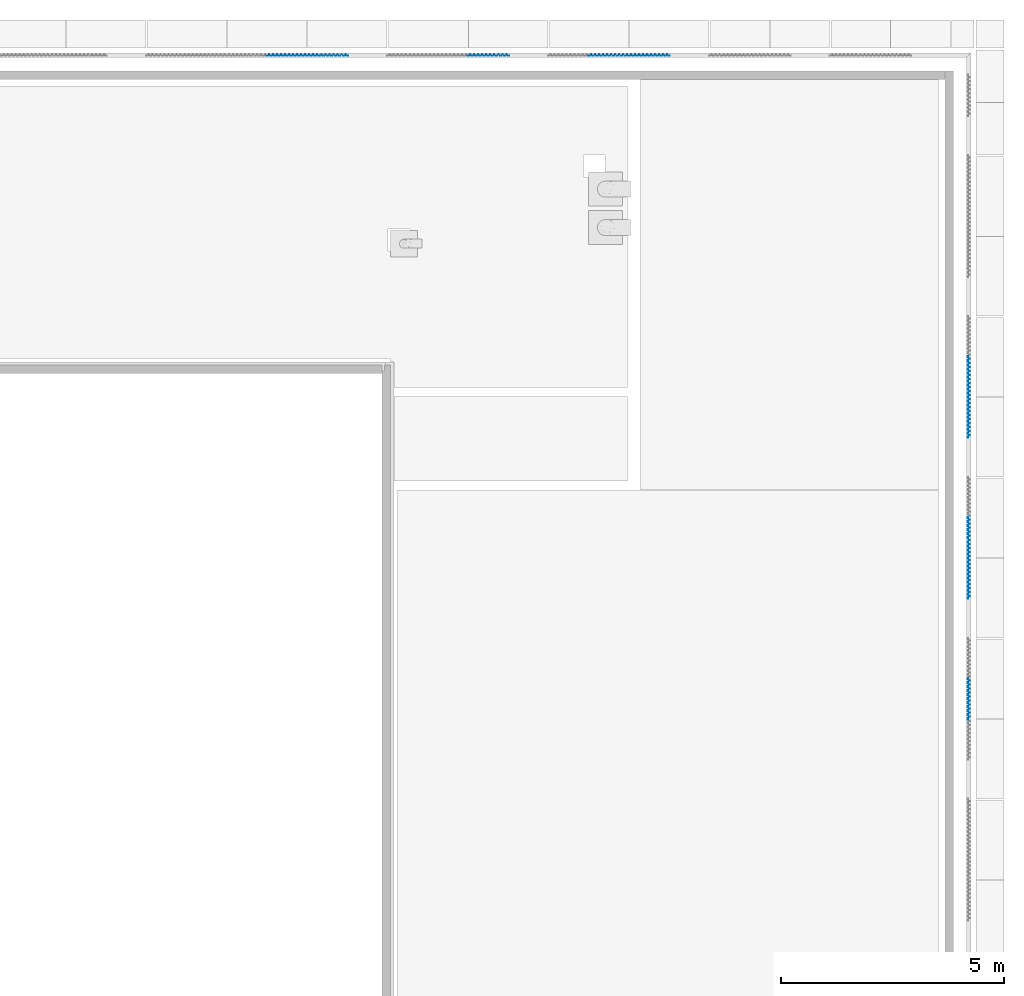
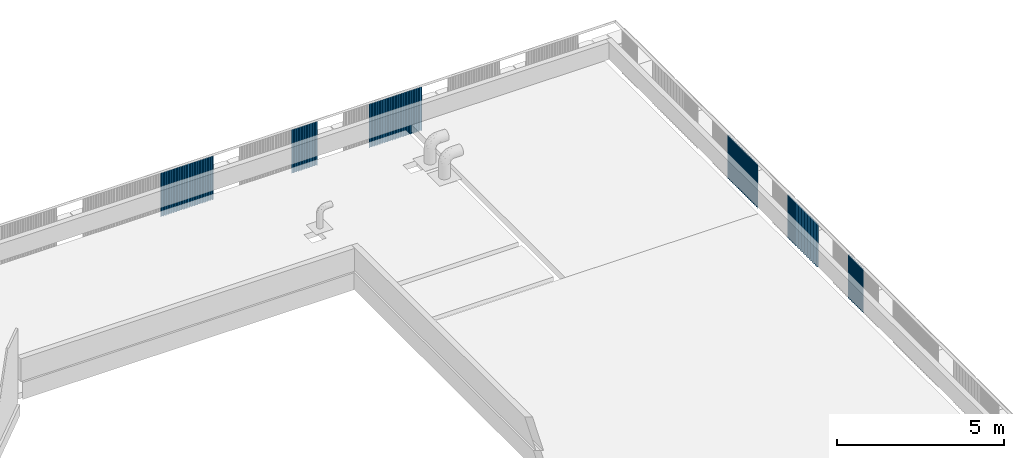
# One storey, part 15 of 37: 10 walls.
"""IFC4X3_ADD2 building model written with IfcOpenShell, lengths in millimetres."""

from ifc_helpers import new_model, si_unit, direction, frame, origin_with_axes, place, context, subcontext, project, spatial, polyline, outline, extrude, source, transform, mapped, material, type_object, type_shapes, element, save


model = new_model("IFC4X3_ADD2")

# Units and contexts
model_context = context("Model", 3, precision=1e-05, world=origin_with_axes(), true_north=direction((0.0, 1.0)))
body_context = subcontext(model_context, "Body", "Model", "MODEL_VIEW")
ifc_project = project(units=[si_unit("LENGTHUNIT", "METRE", prefix="MILLI"), si_unit("AREAUNIT", "SQUARE_METRE"), si_unit("VOLUMEUNIT", "CUBIC_METRE"), si_unit("PLANEANGLEUNIT", "RADIAN"), si_unit("TIMEUNIT", "SECOND"), si_unit("MASSUNIT", "GRAM")], contexts=[model_context])

# Site, building, storey
site_placement = place(None, origin_with_axes())
site = spatial("IfcSite", under=ifc_project, at=site_placement, Name="Site", CompositionType="ELEMENT")
building_placement = place(site_placement, origin_with_axes())
building = spatial("IfcBuilding", under=site, at=building_placement, Name="IFC Building Story")
storey_placement = place(building_placement, frame((0.0, 0.0, 14400.0), z_axis=(0.0, 0.0, 1.0), x_axis=(1.0, 0.0, 0.0)))
storey = spatial("IfcBuildingStorey", under=building, at=storey_placement, Name="040", Elevation=14400.0)

# Walls
ifc_material = material(Name="BB_Metaal_Aluminium_Puntprofiel")
wall_type_1 = type_object("IfcWallType", Name="BB_07.10_Gevelbekleding_PuntProfiel_ 900 mm_ vol_GMO_900 x 1600 mm", PredefinedType="NOTDEFINED")
shared_shape = source(origin_with_axes(), body_context, "Body", "SweptSolid", [
    extrude(outline(polyline([(334.1223513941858, -10.40093329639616), (356.1223513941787, -10.40093329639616), (390.1223513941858, 23.59906670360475), (424.1223513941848, -10.40093329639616), (446.1223513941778, -10.40093329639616), (446.5365649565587, -11.40093329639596), (423.7081378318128, -11.40093329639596), (390.1223513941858, 22.18485314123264), (356.5365649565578, -11.40093329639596), (333.7081378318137, -11.40093329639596), (300.1223513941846, 22.18485314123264), (266.5365649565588, -11.40093329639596), (243.7081378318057, -11.40093329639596), (210.1223513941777, 22.18485314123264), (176.5365649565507, -11.40093329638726), (153.7081378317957, -11.40093329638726), (120.1223513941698, 22.18485314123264), (86.53656495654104, -11.40093329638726), (63.70813783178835, -11.40093329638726), (30.12235139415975, 22.18485314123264), (-3.463435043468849, -11.40093329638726), (-26.2918621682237, -11.40093329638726), (-59.87764860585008, 22.18485314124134), (-93.46343504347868, -11.40093329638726), (-116.2918621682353, -11.40093329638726), (-149.8776486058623, 22.18485314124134), (-183.4634350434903, -11.40093329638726), (-206.2918621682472, -11.40093329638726), (-239.8776486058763, 22.18485314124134), (-273.4634350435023, -11.40093329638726), (-296.2918621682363, -11.40093329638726), (-329.8776486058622, 22.18485314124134), (-363.4634350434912, -11.40093329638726), (-386.2918621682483, -11.40093329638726), (-419.8776486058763, 22.18485314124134), (-453.4634350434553, -11.40093329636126), (-453.8776486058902, -10.40093329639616), (-419.8776486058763, 23.59906670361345), (-385.8776486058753, -10.40093329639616), (-363.8776486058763, -10.40093329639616), (-329.8776486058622, 23.59906670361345), (-295.8776486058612, -10.40093329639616), (-273.8776486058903, -10.40093329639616), (-239.8776486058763, 23.59906670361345), (-205.8776486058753, -10.40093329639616), (-183.8776486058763, -10.40093329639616), (-149.8776486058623, 23.59906670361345), (-115.8776486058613, -10.40093329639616), (-93.87764860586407, -10.40093329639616), (-59.87764860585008, 23.59906670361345), (-25.87764860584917, -10.40093329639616), (-3.877648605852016, -10.40093329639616), (30.12235139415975, 23.59906670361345), (64.12235139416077, -10.40093329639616), (86.12235139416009, -10.40093329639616), (120.1223513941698, 23.59906670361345), (154.1223513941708, -10.40093329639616), (176.1223513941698, -10.40093329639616), (210.1223513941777, 23.59906670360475), (244.1223513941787, -10.40093329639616), (266.1223513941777, -10.40093329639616), (300.1223513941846, 23.59906670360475), (334.1223513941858, -10.40093329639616)])), frame((476.2918621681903, 11.40093329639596, 0.0), z_axis=(0.0, 0.0, 1.0), x_axis=(1.0, 0.0, 0.0)), (0.0, 0.0, 1.0), 1600.0),
    extrude(outline(polyline([(4.353553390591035, 0.499999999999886), (4.353553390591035, -0.499999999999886), (-4.560660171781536, -0.499999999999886), (-4.146446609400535, 0.499999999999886), (4.353553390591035, 0.499999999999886)])), frame((4.560660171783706, 0.499999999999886, 394.66564336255), z_axis=(0.0, 0.0, 1.0), x_axis=(1.0, 0.0, 0.0)), (0.0, 0.0, 1.0), 85.0),
])
type_shapes(wall_type_1, [shared_shape])
wall_1_placement = place(storey_placement, frame((-10776.4142135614, 45715.0, -960.0), z_axis=(0.0, 0.0, 1.0), x_axis=(1.0, 0.0, 0.0)))
element("IfcWall", 1, at=wall_1_placement, inside=storey, type_object=wall_type_1, material=ifc_material, Name="BB_07.10_Gevelbekleding_PuntProfiel, 900 mm, vol_GMO:900 x 1600 mm", ObjectType="BB_07.10_Gevelbekleding_PuntProfiel, 900 mm, vol_GMO:900 x 1600 mm", PredefinedType="NOTDEFINED", context=body_context, shape_type="MappedRepresentation", body=[
    mapped(shared_shape, transform((0.0, 0.0, 0.0))),
])
wall_type_2 = type_object("IfcWallType", Name="BB_Metaal_Aluminium_Puntprofiel 1", PredefinedType="NOTDEFINED", material=ifc_material)
wall_2_placement = place(storey_placement, origin_with_axes())
element("IfcWall", 2, at=wall_2_placement, inside=storey, type_object=wall_type_2, Name="BB_07.10_Gevelbekleding_PuntProfiel, 900 mm, vol_GMO:900 x 1600 mm", ObjectType="BB_07.10_Gevelbekleding_PuntProfiel, 900 mm, vol_GMO:900 x 1600 mm", PredefinedType="NOTDEFINED", context=body_context, shape_type="SweptSolid", body=[
    extrude(outline(polyline([(-10.06027913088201, -349.0000000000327), (-10.06027913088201, -371.0000000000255), (23.93972086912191, -405.0000000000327), (-10.06027913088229, -439.0000000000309), (-10.06027913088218, -461.0000000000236), (-11.06027913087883, -461.4142135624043), (-11.06027913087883, -438.5857864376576), (22.52550730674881, -405.0000000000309), (-11.06027913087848, -371.4142135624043), (-11.06027913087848, -348.5857864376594), (22.52550730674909, -315.0000000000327), (-11.0602791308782, -281.4142135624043), (-11.0602791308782, -258.5857864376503), (22.52550730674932, -225.0000000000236), (-11.06027913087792, -191.4142135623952), (-11.06027913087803, -168.585786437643), (22.5255073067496, -135.0000000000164), (-11.0602791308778, -101.4142135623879), (-11.06027913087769, -78.58578643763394), (22.52550730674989, -45.00000000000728), (-11.06027913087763, -11.41421356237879), (-11.06027913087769, 11.41421356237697), (22.52550730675, 45.00000000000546), (-11.0602791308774, 78.58578643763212), (-11.0602791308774, 101.4142135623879), (22.52550730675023, 135.0000000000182), (-11.06027913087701, 168.585786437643), (-11.06027913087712, 191.4142135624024), (22.5255073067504, 225.0000000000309), (-11.06027913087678, 258.5857864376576), (-11.06027913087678, 281.4142135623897), (22.5255073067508, 315.0000000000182), (-11.06027913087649, 348.585786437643), (-11.06027913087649, 371.4142135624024), (22.52550730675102, 405.0000000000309), (-11.06027913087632, 438.5857864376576), (-11.06027913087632, 461.4142135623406), (-10.0602791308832, 460.9999999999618), (-10.0602791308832, 439.0000000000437), (23.93972086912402, 405.0000000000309), (-10.06027913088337, 371.0000000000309), (-10.06027913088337, 349.0000000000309), (23.93972086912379, 315.0000000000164), (-10.0602791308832, 281.0000000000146), (-10.0602791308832, 259.0000000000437), (23.93972086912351, 225.0000000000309), (-10.060279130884, 191.0000000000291), (-10.060279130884, 169.0000000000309), (23.93972086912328, 135.0000000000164), (-10.06027913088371, 101.0000000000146), (-10.06027913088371, 79.00000000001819), (23.93972086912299, 45.00000000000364), (-10.06027913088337, 11.00000000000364), (-10.06027913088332, -10.99999999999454), (23.93972086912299, -45.00000000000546), (-10.0602791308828, -79.00000000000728), (-10.0602791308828, -101.0000000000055), (23.93972086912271, -135.0000000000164), (-10.06027913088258, -169.0000000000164), (-10.06027913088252, -191.0000000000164), (23.93972086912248, -225.0000000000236), (-10.06027913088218, -259.0000000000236), (-10.06027913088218, -281.0000000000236), (23.9397208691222, -315.0000000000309), (-10.06027913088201, -349.0000000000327)])), frame((426.0602791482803, 31330.00000000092, -960.0), z_axis=(0.0, 0.0, 1.0), x_axis=(1.0, 0.0, 0.0)), (0.0, 0.0, 1.0), 1600.0),
])
wall_3_placement = place(storey_placement, origin_with_axes())
element("IfcWall", 3, at=wall_3_placement, inside=storey, type_object=wall_type_2, Name="BB_07.10_Gevelbekleding_PuntProfiel, 900 mm, vol_GMO:900 x 1600 mm", ObjectType="BB_07.10_Gevelbekleding_PuntProfiel, 900 mm, vol_GMO:900 x 1600 mm", PredefinedType="NOTDEFINED", context=body_context, shape_type="SweptSolid", body=[
    extrude(outline(polyline([(-10.06027913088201, -349.0000000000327), (-10.06027913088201, -371.0000000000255), (23.93972086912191, -405.0000000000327), (-10.06027913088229, -439.0000000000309), (-10.06027913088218, -461.0000000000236), (-11.06027913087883, -461.4142135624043), (-11.06027913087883, -438.5857864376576), (22.52550730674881, -405.0000000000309), (-11.06027913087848, -371.4142135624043), (-11.06027913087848, -348.5857864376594), (22.52550730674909, -315.0000000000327), (-11.0602791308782, -281.4142135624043), (-11.0602791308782, -258.5857864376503), (22.52550730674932, -225.0000000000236), (-11.06027913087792, -191.4142135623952), (-11.06027913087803, -168.585786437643), (22.5255073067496, -135.0000000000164), (-11.0602791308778, -101.4142135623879), (-11.06027913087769, -78.58578643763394), (22.52550730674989, -45.00000000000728), (-11.06027913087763, -11.41421356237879), (-11.06027913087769, 11.41421356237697), (22.52550730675, 45.00000000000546), (-11.0602791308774, 78.58578643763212), (-11.0602791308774, 101.4142135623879), (22.52550730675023, 135.0000000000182), (-11.06027913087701, 168.585786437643), (-11.06027913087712, 191.4142135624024), (22.5255073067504, 225.0000000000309), (-11.06027913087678, 258.5857864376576), (-11.06027913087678, 281.4142135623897), (22.5255073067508, 315.0000000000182), (-11.06027913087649, 348.585786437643), (-11.06027913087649, 371.4142135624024), (22.52550730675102, 405.0000000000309), (-11.06027913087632, 438.5857864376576), (-11.06027913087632, 461.4142135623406), (-10.0602791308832, 460.9999999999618), (-10.0602791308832, 439.0000000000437), (23.93972086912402, 405.0000000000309), (-10.06027913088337, 371.0000000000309), (-10.06027913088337, 349.0000000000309), (23.93972086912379, 315.0000000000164), (-10.0602791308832, 281.0000000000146), (-10.0602791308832, 259.0000000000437), (23.93972086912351, 225.0000000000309), (-10.060279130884, 191.0000000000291), (-10.060279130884, 169.0000000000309), (23.93972086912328, 135.0000000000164), (-10.06027913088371, 101.0000000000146), (-10.06027913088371, 79.00000000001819), (23.93972086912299, 45.00000000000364), (-10.06027913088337, 11.00000000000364), (-10.06027913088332, -10.99999999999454), (23.93972086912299, -45.00000000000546), (-10.0602791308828, -79.00000000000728), (-10.0602791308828, -101.0000000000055), (23.93972086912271, -135.0000000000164), (-10.06027913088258, -169.0000000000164), (-10.06027913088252, -191.0000000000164), (23.93972086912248, -225.0000000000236), (-10.06027913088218, -259.0000000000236), (-10.06027913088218, -281.0000000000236), (23.9397208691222, -315.0000000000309), (-10.06027913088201, -349.0000000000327)])), frame((426.0602791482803, 34030.00000000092, -960.0), z_axis=(0.0, 0.0, 1.0), x_axis=(1.0, 0.0, 0.0)), (0.0, 0.0, 1.0), 1600.0),
])
wall_4_placement = place(storey_placement, origin_with_axes())
element("IfcWall", 4, at=wall_4_placement, inside=storey, type_object=wall_type_2, Name="BB_07.10_Gevelbekleding_PuntProfiel, 900 mm, vol_GMO:900 x 1600 mm", ObjectType="BB_07.10_Gevelbekleding_PuntProfiel, 900 mm, vol_GMO:900 x 1600 mm", PredefinedType="NOTDEFINED", context=body_context, shape_type="SweptSolid", body=[
    extrude(outline(polyline([(-10.06027913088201, -349.0000000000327), (-10.06027913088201, -371.0000000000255), (23.93972086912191, -405.0000000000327), (-10.06027913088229, -439.0000000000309), (-10.06027913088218, -461.0000000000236), (-11.06027913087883, -461.4142135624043), (-11.06027913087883, -438.5857864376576), (22.52550730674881, -405.0000000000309), (-11.06027913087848, -371.4142135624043), (-11.06027913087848, -348.5857864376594), (22.52550730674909, -315.0000000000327), (-11.0602791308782, -281.4142135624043), (-11.0602791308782, -258.5857864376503), (22.52550730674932, -225.0000000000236), (-11.06027913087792, -191.4142135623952), (-11.06027913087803, -168.585786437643), (22.5255073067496, -135.0000000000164), (-11.0602791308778, -101.4142135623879), (-11.06027913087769, -78.58578643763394), (22.52550730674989, -45.00000000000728), (-11.06027913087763, -11.41421356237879), (-11.06027913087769, 11.41421356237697), (22.52550730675, 45.00000000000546), (-11.0602791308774, 78.58578643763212), (-11.0602791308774, 101.4142135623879), (22.52550730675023, 135.0000000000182), (-11.06027913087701, 168.585786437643), (-11.06027913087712, 191.4142135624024), (22.5255073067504, 225.0000000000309), (-11.06027913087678, 258.5857864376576), (-11.06027913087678, 281.4142135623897), (22.5255073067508, 315.0000000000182), (-11.06027913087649, 348.585786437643), (-11.06027913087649, 371.4142135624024), (22.52550730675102, 405.0000000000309), (-11.06027913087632, 438.5857864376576), (-11.06027913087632, 461.4142135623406), (-10.0602791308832, 460.9999999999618), (-10.0602791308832, 439.0000000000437), (23.93972086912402, 405.0000000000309), (-10.06027913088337, 371.0000000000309), (-10.06027913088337, 349.0000000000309), (23.93972086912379, 315.0000000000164), (-10.0602791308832, 281.0000000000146), (-10.0602791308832, 259.0000000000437), (23.93972086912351, 225.0000000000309), (-10.060279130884, 191.0000000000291), (-10.060279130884, 169.0000000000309), (23.93972086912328, 135.0000000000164), (-10.06027913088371, 101.0000000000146), (-10.06027913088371, 79.00000000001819), (23.93972086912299, 45.00000000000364), (-10.06027913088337, 11.00000000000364), (-10.06027913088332, -10.99999999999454), (23.93972086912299, -45.00000000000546), (-10.0602791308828, -79.00000000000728), (-10.0602791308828, -101.0000000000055), (23.93972086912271, -135.0000000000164), (-10.06027913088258, -169.0000000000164), (-10.06027913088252, -191.0000000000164), (23.93972086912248, -225.0000000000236), (-10.06027913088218, -259.0000000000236), (-10.06027913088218, -281.0000000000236), (23.9397208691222, -315.0000000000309), (-10.06027913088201, -349.0000000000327)])), frame((426.0602791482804, 34930.00000000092, -960.0), z_axis=(0.0, 0.0, 1.0), x_axis=(1.0, 0.0, 0.0)), (0.0, 0.0, 1.0), 1600.0),
])
wall_5_placement = place(storey_placement, origin_with_axes())
element("IfcWall", 5, at=wall_5_placement, inside=storey, type_object=wall_type_2, Name="BB_07.10_Gevelbekleding_PuntProfiel, 900 mm, vol_GMO:900 x 1600 mm", ObjectType="BB_07.10_Gevelbekleding_PuntProfiel, 900 mm, vol_GMO:900 x 1600 mm", PredefinedType="NOTDEFINED", context=body_context, shape_type="SweptSolid", body=[
    extrude(outline(polyline([(-10.06027913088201, -349.0000000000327), (-10.06027913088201, -371.0000000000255), (23.93972086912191, -405.0000000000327), (-10.06027913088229, -439.0000000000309), (-10.06027913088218, -461.0000000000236), (-11.06027913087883, -461.4142135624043), (-11.06027913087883, -438.5857864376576), (22.52550730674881, -405.0000000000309), (-11.06027913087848, -371.4142135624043), (-11.06027913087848, -348.5857864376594), (22.52550730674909, -315.0000000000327), (-11.0602791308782, -281.4142135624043), (-11.0602791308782, -258.5857864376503), (22.52550730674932, -225.0000000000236), (-11.06027913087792, -191.4142135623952), (-11.06027913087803, -168.585786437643), (22.5255073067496, -135.0000000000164), (-11.0602791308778, -101.4142135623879), (-11.06027913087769, -78.58578643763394), (22.52550730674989, -45.00000000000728), (-11.06027913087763, -11.41421356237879), (-11.06027913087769, 11.41421356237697), (22.52550730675, 45.00000000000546), (-11.0602791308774, 78.58578643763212), (-11.0602791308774, 101.4142135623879), (22.52550730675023, 135.0000000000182), (-11.06027913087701, 168.585786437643), (-11.06027913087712, 191.4142135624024), (22.5255073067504, 225.0000000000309), (-11.06027913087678, 258.5857864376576), (-11.06027913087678, 281.4142135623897), (22.5255073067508, 315.0000000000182), (-11.06027913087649, 348.585786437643), (-11.06027913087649, 371.4142135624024), (22.52550730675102, 405.0000000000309), (-11.06027913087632, 438.5857864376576), (-11.06027913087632, 461.4142135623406), (-10.0602791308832, 460.9999999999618), (-10.0602791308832, 439.0000000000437), (23.93972086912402, 405.0000000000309), (-10.06027913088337, 371.0000000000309), (-10.06027913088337, 349.0000000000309), (23.93972086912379, 315.0000000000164), (-10.0602791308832, 281.0000000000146), (-10.0602791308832, 259.0000000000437), (23.93972086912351, 225.0000000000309), (-10.060279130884, 191.0000000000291), (-10.060279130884, 169.0000000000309), (23.93972086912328, 135.0000000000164), (-10.06027913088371, 101.0000000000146), (-10.06027913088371, 79.00000000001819), (23.93972086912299, 45.00000000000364), (-10.06027913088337, 11.00000000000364), (-10.06027913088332, -10.99999999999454), (23.93972086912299, -45.00000000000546), (-10.0602791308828, -79.00000000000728), (-10.0602791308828, -101.0000000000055), (23.93972086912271, -135.0000000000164), (-10.06027913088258, -169.0000000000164), (-10.06027913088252, -191.0000000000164), (23.93972086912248, -225.0000000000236), (-10.06027913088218, -259.0000000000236), (-10.06027913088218, -281.0000000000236), (23.9397208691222, -315.0000000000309), (-10.06027913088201, -349.0000000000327)])), frame((426.0602791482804, 37630.00000000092, -960.0), z_axis=(0.0, 0.0, 1.0), x_axis=(1.0, 0.0, 0.0)), (0.0, 0.0, 1.0), 1600.0),
])
wall_6_placement = place(storey_placement, origin_with_axes())
element("IfcWall", 6, at=wall_6_placement, inside=storey, type_object=wall_type_2, Name="BB_07.10_Gevelbekleding_PuntProfiel, 900 mm, vol_GMO:900 x 1600 mm", ObjectType="BB_07.10_Gevelbekleding_PuntProfiel, 900 mm, vol_GMO:900 x 1600 mm", PredefinedType="NOTDEFINED", context=body_context, shape_type="SweptSolid", body=[
    extrude(outline(polyline([(-10.06027913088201, -349.0000000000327), (-10.06027913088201, -371.0000000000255), (23.93972086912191, -405.0000000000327), (-10.06027913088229, -439.0000000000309), (-10.06027913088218, -461.0000000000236), (-11.06027913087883, -461.4142135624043), (-11.06027913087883, -438.5857864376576), (22.52550730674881, -405.0000000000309), (-11.06027913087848, -371.4142135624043), (-11.06027913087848, -348.5857864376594), (22.52550730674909, -315.0000000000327), (-11.0602791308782, -281.4142135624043), (-11.0602791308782, -258.5857864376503), (22.52550730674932, -225.0000000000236), (-11.06027913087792, -191.4142135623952), (-11.06027913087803, -168.585786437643), (22.5255073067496, -135.0000000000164), (-11.0602791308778, -101.4142135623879), (-11.06027913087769, -78.58578643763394), (22.52550730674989, -45.00000000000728), (-11.06027913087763, -11.41421356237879), (-11.06027913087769, 11.41421356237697), (22.52550730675, 45.00000000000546), (-11.0602791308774, 78.58578643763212), (-11.0602791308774, 101.4142135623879), (22.52550730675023, 135.0000000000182), (-11.06027913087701, 168.585786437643), (-11.06027913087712, 191.4142135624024), (22.5255073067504, 225.0000000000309), (-11.06027913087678, 258.5857864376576), (-11.06027913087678, 281.4142135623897), (22.5255073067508, 315.0000000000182), (-11.06027913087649, 348.585786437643), (-11.06027913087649, 371.4142135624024), (22.52550730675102, 405.0000000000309), (-11.06027913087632, 438.5857864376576), (-11.06027913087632, 461.4142135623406), (-10.0602791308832, 460.9999999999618), (-10.0602791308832, 439.0000000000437), (23.93972086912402, 405.0000000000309), (-10.06027913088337, 371.0000000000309), (-10.06027913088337, 349.0000000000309), (23.93972086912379, 315.0000000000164), (-10.0602791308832, 281.0000000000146), (-10.0602791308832, 259.0000000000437), (23.93972086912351, 225.0000000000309), (-10.060279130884, 191.0000000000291), (-10.060279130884, 169.0000000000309), (23.93972086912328, 135.0000000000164), (-10.06027913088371, 101.0000000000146), (-10.06027913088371, 79.00000000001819), (23.93972086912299, 45.00000000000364), (-10.06027913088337, 11.00000000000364), (-10.06027913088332, -10.99999999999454), (23.93972086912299, -45.00000000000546), (-10.0602791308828, -79.00000000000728), (-10.0602791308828, -101.0000000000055), (23.93972086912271, -135.0000000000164), (-10.06027913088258, -169.0000000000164), (-10.06027913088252, -191.0000000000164), (23.93972086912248, -225.0000000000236), (-10.06027913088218, -259.0000000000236), (-10.06027913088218, -281.0000000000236), (23.9397208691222, -315.0000000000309), (-10.06027913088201, -349.0000000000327)])), frame((426.0602791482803, 38530.00000000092, -960.0), z_axis=(0.0, 0.0, 1.0), x_axis=(1.0, 0.0, 0.0)), (0.0, 0.0, 1.0), 1600.0),
])
wall_7_placement = place(storey_placement, origin_with_axes())
element("IfcWall", 7, at=wall_7_placement, inside=storey, type_object=wall_type_2, Name="BB_07.10_Gevelbekleding_PuntProfiel, 900 mm, vol_GMO:900 x 1600 mm", ObjectType="BB_07.10_Gevelbekleding_PuntProfiel, 900 mm, vol_GMO:900 x 1600 mm", PredefinedType="NOTDEFINED", context=body_context, shape_type="SweptSolid", body=[
    extrude(outline(polyline([(349.0000000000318, -10.06027913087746), (371.0000000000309, -10.06027913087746), (405.0000000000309, 23.93972086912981), (439.0000000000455, -10.06027913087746), (460.9999999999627, -10.06027913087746), (461.4142135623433, -11.06027913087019), (438.5857864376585, -11.06027913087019), (405.0000000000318, 22.52550730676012), (371.4142135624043, -11.06027913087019), (348.5857864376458, -11.06027913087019), (315.0000000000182, 22.52550730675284), (281.4142135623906, -11.06027913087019), (258.5857864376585, -11.06027913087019), (225.0000000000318, 22.52550730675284), (191.4142135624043, -11.06027913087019), (168.5857864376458, -11.06027913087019), (135.0000000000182, 22.52550730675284), (101.4142135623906, -11.06027913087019), (78.58578643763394, -11.06027913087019), (45.00000000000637, 22.52550730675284), (11.4142135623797, -11.06027913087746), (-11.41421356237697, -11.06027913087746), (-45.00000000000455, 22.52550730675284), (-78.58578643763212, -11.06027913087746), (-101.414213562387, -11.06027913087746), (-135.0000000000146, 22.52550730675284), (-168.5857864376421, -11.06027913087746), (-191.4142135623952, -11.06027913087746), (-225.0000000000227, 22.52550730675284), (-258.5857864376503, -11.06027913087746), (-281.4142135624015, -11.06027913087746), (-315.0000000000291, 22.52550730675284), (-348.5857864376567, -11.06027913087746), (-371.4142135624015, -11.06027913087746), (-405.00000000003, 22.52550730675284), (-438.5857864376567, -11.06027913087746), (-461.4142135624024, -11.06027913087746), (-461.0000000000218, -10.06027913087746), (-439.00000000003, -10.06027913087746), (-405.00000000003, 23.93972086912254), (-371.0000000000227, -10.06027913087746), (-349.00000000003, -10.06027913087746), (-315.0000000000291, 23.93972086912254), (-281.0000000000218, -10.06027913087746), (-259.0000000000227, -10.06027913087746), (-225.0000000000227, 23.93972086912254), (-191.0000000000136, -10.06027913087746), (-169.0000000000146, -10.06027913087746), (-135.0000000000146, 23.93972086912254), (-101.0000000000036, -10.06027913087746), (-79.00000000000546, -10.06027913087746), (-45.00000000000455, 23.93972086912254), (-10.99999999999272, -10.06027913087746), (11.00000000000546, -10.06027913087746), (45.00000000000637, 23.93972086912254), (79.0000000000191, -10.06027913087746), (101.0000000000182, -10.06027913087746), (135.0000000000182, 23.93972086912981), (169.0000000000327, -10.06027913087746), (191.0000000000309, -10.06027913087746), (225.0000000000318, 23.93972086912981), (259.0000000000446, -10.06027913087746), (281.0000000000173, -10.06027913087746), (315.0000000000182, 23.93972086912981), (349.0000000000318, -10.06027913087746)])), frame((-14814.99999999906, 45726.06027913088, -960.0), z_axis=(0.0, 0.0, 1.0), x_axis=(1.0, 0.0, 0.0)), (0.0, 0.0, 1.0), 1600.0),
])
wall_8_placement = place(storey_placement, origin_with_axes())
element("IfcWall", 8, at=wall_8_placement, inside=storey, type_object=wall_type_2, Name="BB_07.10_Gevelbekleding_PuntProfiel, 900 mm, vol_GMO:900 x 1600 mm", ObjectType="BB_07.10_Gevelbekleding_PuntProfiel, 900 mm, vol_GMO:900 x 1600 mm", PredefinedType="NOTDEFINED", context=body_context, shape_type="SweptSolid", body=[
    extrude(outline(polyline([(349.0000000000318, -10.06027913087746), (371.0000000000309, -10.06027913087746), (405.0000000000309, 23.93972086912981), (439.0000000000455, -10.06027913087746), (460.9999999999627, -10.06027913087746), (461.4142135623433, -11.06027913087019), (438.5857864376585, -11.06027913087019), (405.0000000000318, 22.52550730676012), (371.4142135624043, -11.06027913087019), (348.5857864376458, -11.06027913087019), (315.0000000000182, 22.52550730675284), (281.4142135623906, -11.06027913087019), (258.5857864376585, -11.06027913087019), (225.0000000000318, 22.52550730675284), (191.4142135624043, -11.06027913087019), (168.5857864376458, -11.06027913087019), (135.0000000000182, 22.52550730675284), (101.4142135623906, -11.06027913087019), (78.58578643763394, -11.06027913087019), (45.00000000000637, 22.52550730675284), (11.4142135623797, -11.06027913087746), (-11.41421356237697, -11.06027913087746), (-45.00000000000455, 22.52550730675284), (-78.58578643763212, -11.06027913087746), (-101.414213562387, -11.06027913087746), (-135.0000000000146, 22.52550730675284), (-168.5857864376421, -11.06027913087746), (-191.4142135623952, -11.06027913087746), (-225.0000000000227, 22.52550730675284), (-258.5857864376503, -11.06027913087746), (-281.4142135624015, -11.06027913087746), (-315.0000000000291, 22.52550730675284), (-348.5857864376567, -11.06027913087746), (-371.4142135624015, -11.06027913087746), (-405.00000000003, 22.52550730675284), (-438.5857864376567, -11.06027913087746), (-461.4142135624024, -11.06027913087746), (-461.0000000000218, -10.06027913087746), (-439.00000000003, -10.06027913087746), (-405.00000000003, 23.93972086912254), (-371.0000000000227, -10.06027913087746), (-349.00000000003, -10.06027913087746), (-315.0000000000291, 23.93972086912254), (-281.0000000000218, -10.06027913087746), (-259.0000000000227, -10.06027913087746), (-225.0000000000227, 23.93972086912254), (-191.0000000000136, -10.06027913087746), (-169.0000000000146, -10.06027913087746), (-135.0000000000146, 23.93972086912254), (-101.0000000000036, -10.06027913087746), (-79.00000000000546, -10.06027913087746), (-45.00000000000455, 23.93972086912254), (-10.99999999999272, -10.06027913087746), (11.00000000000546, -10.06027913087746), (45.00000000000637, 23.93972086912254), (79.0000000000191, -10.06027913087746), (101.0000000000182, -10.06027913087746), (135.0000000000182, 23.93972086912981), (169.0000000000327, -10.06027913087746), (191.0000000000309, -10.06027913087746), (225.0000000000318, 23.93972086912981), (259.0000000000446, -10.06027913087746), (281.0000000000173, -10.06027913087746), (315.0000000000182, 23.93972086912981), (349.0000000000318, -10.06027913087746)])), frame((-13914.99999999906, 45726.06027913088, -960.0), z_axis=(0.0, 0.0, 1.0), x_axis=(1.0, 0.0, 0.0)), (0.0, 0.0, 1.0), 1600.0),
])
wall_9_placement = place(storey_placement, origin_with_axes())
element("IfcWall", 9, at=wall_9_placement, inside=storey, type_object=wall_type_2, Name="BB_07.10_Gevelbekleding_PuntProfiel, 900 mm, vol_GMO:900 x 1600 mm", ObjectType="BB_07.10_Gevelbekleding_PuntProfiel, 900 mm, vol_GMO:900 x 1600 mm", PredefinedType="NOTDEFINED", context=body_context, shape_type="SweptSolid", body=[
    extrude(outline(polyline([(349.0000000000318, -10.06027913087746), (371.0000000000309, -10.06027913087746), (405.0000000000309, 23.93972086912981), (439.0000000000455, -10.06027913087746), (460.9999999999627, -10.06027913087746), (461.4142135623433, -11.06027913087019), (438.5857864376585, -11.06027913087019), (405.0000000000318, 22.52550730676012), (371.4142135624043, -11.06027913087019), (348.5857864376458, -11.06027913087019), (315.0000000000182, 22.52550730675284), (281.4142135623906, -11.06027913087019), (258.5857864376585, -11.06027913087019), (225.0000000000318, 22.52550730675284), (191.4142135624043, -11.06027913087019), (168.5857864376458, -11.06027913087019), (135.0000000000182, 22.52550730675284), (101.4142135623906, -11.06027913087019), (78.58578643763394, -11.06027913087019), (45.00000000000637, 22.52550730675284), (11.4142135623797, -11.06027913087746), (-11.41421356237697, -11.06027913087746), (-45.00000000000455, 22.52550730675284), (-78.58578643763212, -11.06027913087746), (-101.414213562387, -11.06027913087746), (-135.0000000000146, 22.52550730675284), (-168.5857864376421, -11.06027913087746), (-191.4142135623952, -11.06027913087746), (-225.0000000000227, 22.52550730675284), (-258.5857864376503, -11.06027913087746), (-281.4142135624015, -11.06027913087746), (-315.0000000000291, 22.52550730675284), (-348.5857864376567, -11.06027913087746), (-371.4142135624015, -11.06027913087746), (-405.00000000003, 22.52550730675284), (-438.5857864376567, -11.06027913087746), (-461.4142135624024, -11.06027913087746), (-461.0000000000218, -10.06027913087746), (-439.00000000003, -10.06027913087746), (-405.00000000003, 23.93972086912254), (-371.0000000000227, -10.06027913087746), (-349.00000000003, -10.06027913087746), (-315.0000000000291, 23.93972086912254), (-281.0000000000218, -10.06027913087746), (-259.0000000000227, -10.06027913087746), (-225.0000000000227, 23.93972086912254), (-191.0000000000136, -10.06027913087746), (-169.0000000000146, -10.06027913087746), (-135.0000000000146, 23.93972086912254), (-101.0000000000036, -10.06027913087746), (-79.00000000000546, -10.06027913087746), (-45.00000000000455, 23.93972086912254), (-10.99999999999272, -10.06027913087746), (11.00000000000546, -10.06027913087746), (45.00000000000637, 23.93972086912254), (79.0000000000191, -10.06027913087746), (101.0000000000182, -10.06027913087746), (135.0000000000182, 23.93972086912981), (169.0000000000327, -10.06027913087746), (191.0000000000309, -10.06027913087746), (225.0000000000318, 23.93972086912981), (259.0000000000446, -10.06027913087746), (281.0000000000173, -10.06027913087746), (315.0000000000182, 23.93972086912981), (349.0000000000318, -10.06027913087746)])), frame((-6714.999999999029, 45726.06027913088, -960.0), z_axis=(0.0, 0.0, 1.0), x_axis=(1.0, 0.0, 0.0)), (0.0, 0.0, 1.0), 1600.0),
])
wall_10_placement = place(storey_placement, origin_with_axes())
element("IfcWall", 10, at=wall_10_placement, inside=storey, type_object=wall_type_2, Name="BB_07.10_Gevelbekleding_PuntProfiel, 900 mm, vol_GMO:900 x 1600 mm", ObjectType="BB_07.10_Gevelbekleding_PuntProfiel, 900 mm, vol_GMO:900 x 1600 mm", PredefinedType="NOTDEFINED", context=body_context, shape_type="SweptSolid", body=[
    extrude(outline(polyline([(349.0000000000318, -10.06027913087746), (371.0000000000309, -10.06027913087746), (405.0000000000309, 23.93972086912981), (439.0000000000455, -10.06027913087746), (460.9999999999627, -10.06027913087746), (461.4142135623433, -11.06027913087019), (438.5857864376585, -11.06027913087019), (405.0000000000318, 22.52550730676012), (371.4142135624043, -11.06027913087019), (348.5857864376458, -11.06027913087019), (315.0000000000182, 22.52550730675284), (281.4142135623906, -11.06027913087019), (258.5857864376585, -11.06027913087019), (225.0000000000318, 22.52550730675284), (191.4142135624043, -11.06027913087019), (168.5857864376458, -11.06027913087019), (135.0000000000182, 22.52550730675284), (101.4142135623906, -11.06027913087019), (78.58578643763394, -11.06027913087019), (45.00000000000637, 22.52550730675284), (11.4142135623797, -11.06027913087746), (-11.41421356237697, -11.06027913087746), (-45.00000000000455, 22.52550730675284), (-78.58578643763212, -11.06027913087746), (-101.414213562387, -11.06027913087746), (-135.0000000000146, 22.52550730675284), (-168.5857864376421, -11.06027913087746), (-191.4142135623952, -11.06027913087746), (-225.0000000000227, 22.52550730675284), (-258.5857864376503, -11.06027913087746), (-281.4142135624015, -11.06027913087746), (-315.0000000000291, 22.52550730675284), (-348.5857864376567, -11.06027913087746), (-371.4142135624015, -11.06027913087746), (-405.00000000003, 22.52550730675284), (-438.5857864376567, -11.06027913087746), (-461.4142135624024, -11.06027913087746), (-461.0000000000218, -10.06027913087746), (-439.00000000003, -10.06027913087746), (-405.00000000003, 23.93972086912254), (-371.0000000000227, -10.06027913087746), (-349.00000000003, -10.06027913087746), (-315.0000000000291, 23.93972086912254), (-281.0000000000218, -10.06027913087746), (-259.0000000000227, -10.06027913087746), (-225.0000000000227, 23.93972086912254), (-191.0000000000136, -10.06027913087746), (-169.0000000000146, -10.06027913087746), (-135.0000000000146, 23.93972086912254), (-101.0000000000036, -10.06027913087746), (-79.00000000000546, -10.06027913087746), (-45.00000000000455, 23.93972086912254), (-10.99999999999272, -10.06027913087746), (11.00000000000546, -10.06027913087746), (45.00000000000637, 23.93972086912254), (79.0000000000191, -10.06027913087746), (101.0000000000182, -10.06027913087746), (135.0000000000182, 23.93972086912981), (169.0000000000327, -10.06027913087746), (191.0000000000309, -10.06027913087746), (225.0000000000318, 23.93972086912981), (259.0000000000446, -10.06027913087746), (281.0000000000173, -10.06027913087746), (315.0000000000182, 23.93972086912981), (349.0000000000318, -10.06027913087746)])), frame((-7614.99999999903, 45726.06027913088, -960.0), z_axis=(0.0, 0.0, 1.0), x_axis=(1.0, 0.0, 0.0)), (0.0, 0.0, 1.0), 1600.0),
])

save(model, "model.ifc")
